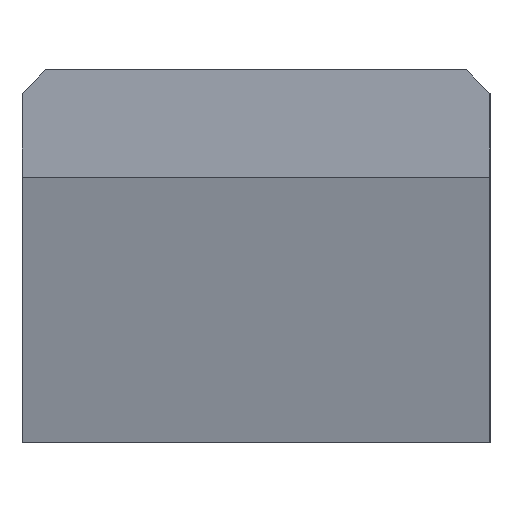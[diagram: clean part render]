
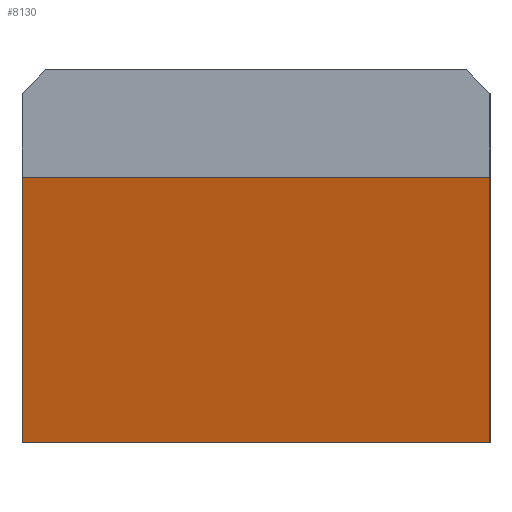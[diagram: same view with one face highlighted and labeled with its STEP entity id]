
A CAD part, left-side view. The second image highlights one B-rep face of the part: STEP entity #8130.
In plain terms, the highlighted planar face has unit normal (-0.943, 0.334, 0).
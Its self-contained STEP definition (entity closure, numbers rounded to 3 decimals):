
#4795 = VERTEX_POINT ( 'NONE', #19383 ) ;
#4855 = VERTEX_POINT ( 'NONE', #19451 ) ;
#4863 = VERTEX_POINT ( 'NONE', #19473 ) ;
#5432 = DIRECTION ( 'NONE',  ( -0.334, -0.943, 0. ) ) ;
#5455 = CARTESIAN_POINT ( 'NONE',  ( 17.352, 49., 15.75 ) ) ;
#6527 = AXIS2_PLACEMENT_3D ( 'NONE', #11638, #11646, #11662 ) ;
#8130 = ADVANCED_FACE ( 'NONE', ( #53055 ), #11659, .F. ) ;
#11638 = CARTESIAN_POINT ( 'NONE',  ( 0., 0., 27. ) ) ;
#11646 = DIRECTION ( 'NONE',  ( 0.943, -0.334, 0. ) ) ;
#11659 = PLANE ( 'NONE',  #6527 ) ;
#11662 = DIRECTION ( 'NONE',  ( 0.334, 0.943, 0. ) ) ;
#13231 = LINE ( 'NONE', #36541, #13239 ) ;
#13239 = VECTOR ( 'NONE', #36525, 1000. ) ;
#13694 = LINE ( 'NONE', #34545, #13757 ) ;
#13757 = VECTOR ( 'NONE', #34583, 1000. ) ;
#14789 = EDGE_LOOP ( 'NONE', ( #55591, #55535, #55611, #55581 ) ) ;
#14973 = LINE ( 'NONE', #5455, #15014 ) ;
#15014 = VECTOR ( 'NONE', #5432, 1000. ) ;
#16374 = EDGE_CURVE ( 'NONE', #4855, #4795, #58352, .T. ) ;
#19383 = CARTESIAN_POINT ( 'NONE',  ( 0., 0., -12. ) ) ;
#19451 = CARTESIAN_POINT ( 'NONE',  ( 17.352, 49., -12. ) ) ;
#19473 = CARTESIAN_POINT ( 'NONE',  ( 17.352, 49., 15.75 ) ) ;
#22359 = VERTEX_POINT ( 'NONE', #38941 ) ;
#28759 = EDGE_CURVE ( 'NONE', #22359, #4795, #13231, .T. ) ;
#29038 = EDGE_CURVE ( 'NONE', #4863, #4855, #13694, .T. ) ;
#29391 = EDGE_CURVE ( 'NONE', #4863, #22359, #14973, .T. ) ;
#34545 = CARTESIAN_POINT ( 'NONE',  ( 17.352, 49., 27. ) ) ;
#34583 = DIRECTION ( 'NONE',  ( 0., 0., -1. ) ) ;
#36525 = DIRECTION ( 'NONE',  ( 0., 0., -1. ) ) ;
#36541 = CARTESIAN_POINT ( 'NONE',  ( 0., 0., 27. ) ) ;
#38941 = CARTESIAN_POINT ( 'NONE',  ( 0., 0., 15.75 ) ) ;
#53055 = FACE_OUTER_BOUND ( 'NONE', #14789, .T. ) ;
#55535 = ORIENTED_EDGE ( 'NONE', *, *, #29391, .F. ) ;
#55581 = ORIENTED_EDGE ( 'NONE', *, *, #16374, .T. ) ;
#55591 = ORIENTED_EDGE ( 'NONE', *, *, #28759, .F. ) ;
#55611 = ORIENTED_EDGE ( 'NONE', *, *, #29038, .T. ) ;
#58341 = VECTOR ( 'NONE', #61432, 1000. ) ;
#58352 = LINE ( 'NONE', #61441, #58341 ) ;
#61432 = DIRECTION ( 'NONE',  ( -0.334, -0.943, 0. ) ) ;
#61441 = CARTESIAN_POINT ( 'NONE',  ( 0., 0., -12. ) ) ;
